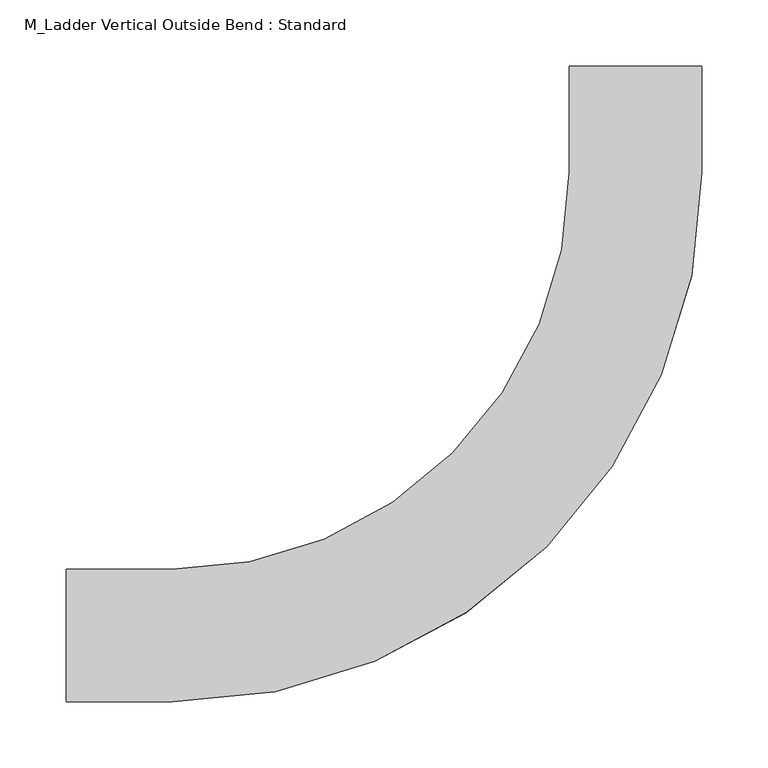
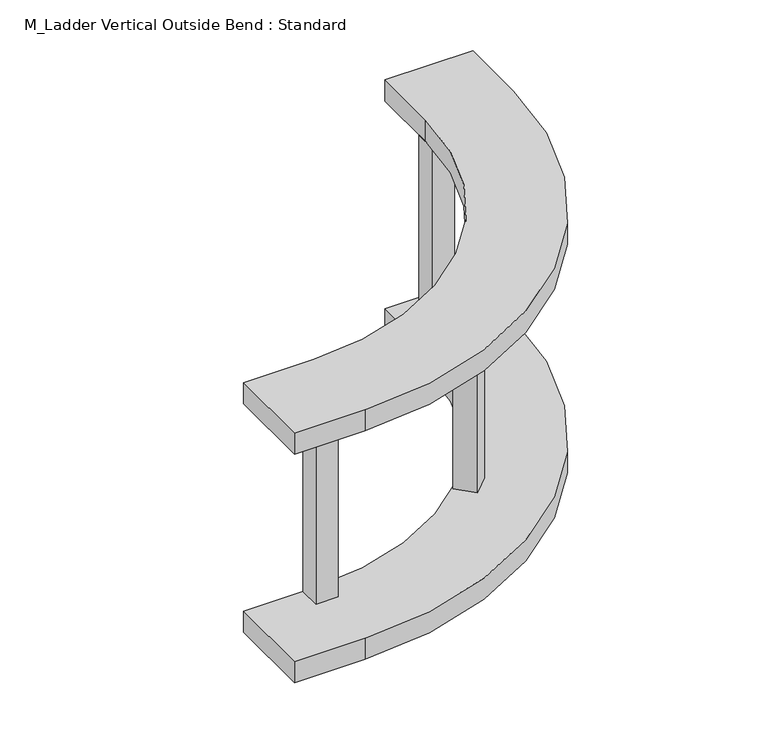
"""IFC4 building model written with IfcOpenShell, lengths in millimetres: cable carrier fitting geometry, M_Ladder Vertical Outside Bend : Standard."""

from ifc_helpers import new_model, si_unit, point, frame, frame_2d, origin, place, context, project, spatial, polyline, circle_curve, trimmed, segment, composite_curve, outline, extrude, source, transform, mapped, element, save


def m_ladder_vertical_outside_bend_standard_a116f5cc(model_context):
    return source(origin(), model_context, "Body", "SweptSolid", [
        extrude(outline(polyline([(-50.0, 362.7), (-24.6, 362.7), (-24.6, 337.3), (-50.0, 337.3), (-50.0, 362.7)])), frame((0.0, 0.0, -124.6), z_axis=(0.0, 0.0, 1.0), x_axis=(1.0, 0.0, 0.0)), (0.0, 0.0, 1.0), 249.2),
        extrude(outline(polyline([(-128.8877095, 146.8482218), (-110.9271973, 128.8877095), (-128.8877095, 110.9271973), (-146.8482218, 128.8877095), (-128.8877095, 146.8482218)])), frame((0.0, 0.0, -124.6), z_axis=(0.0, 0.0, 1.0), x_axis=(1.0, 0.0, 0.0)), (0.0, 0.0, 1.0), 249.2),
        extrude(outline(polyline([(-362.7, 24.6), (-362.7, 50.0), (-337.3, 50.0), (-337.3, 24.6), (-362.7, 24.6)])), frame((0.0, 0.0, -124.6), z_axis=(0.0, 0.0, 1.0), x_axis=(1.0, 0.0, 0.0)), (0.0, 0.0, 1.0), 249.2),
        extrude(outline(composite_curve([segment(polyline([(-430.0, -50.0), (-430.0, 50.0), (-350.0, 50.0)]), True, "CONTINUOUS"), segment(trimmed(circle_curve(frame_2d((-350.0, 350.0)), 300.0), [point((-350.0, 50.0))], [point((-50.0, 350.0))], True, "CARTESIAN"), True, "CONTINUOUS"), segment(polyline([(-50.0, 350.0), (-50.0, 430.0), (50.0, 430.0), (50.0, 350.0)]), True, "CONTINUOUS"), segment(trimmed(circle_curve(frame_2d((-350.0, 350.0)), 400.0), [point((50.0, 350.0))], [point((-350.0, -50.0))], False, "CARTESIAN"), True, "CONTINUOUS"), segment(polyline([(-350.0, -50.0), (-430.0, -50.0)]), True, "CONTINUOUS")], self_intersect=False)), frame((0.0, 0.0, 124.6), z_axis=(0.0, 0.0, 1.0), x_axis=(1.0, 0.0, 0.0)), (0.0, 0.0, 1.0), 25.4),
        extrude(outline(composite_curve([segment(polyline([(-430.0, -50.0), (-430.0, 50.0), (-350.0, 50.0)]), True, "CONTINUOUS"), segment(trimmed(circle_curve(frame_2d((-350.0, 350.0)), 300.0), [point((-350.0, 50.0))], [point((-50.0, 350.0))], True, "CARTESIAN"), True, "CONTINUOUS"), segment(polyline([(-50.0, 350.0), (-50.0, 430.0), (50.0, 430.0), (50.0, 350.0)]), True, "CONTINUOUS"), segment(trimmed(circle_curve(frame_2d((-350.0, 350.0)), 400.0), [point((50.0, 350.0))], [point((-350.0, -50.0))], False, "CARTESIAN"), True, "CONTINUOUS"), segment(polyline([(-350.0, -50.0), (-430.0, -50.0)]), True, "CONTINUOUS")], self_intersect=False)), frame((0.0, 0.0, -150.0), z_axis=(0.0, 0.0, 1.0), x_axis=(1.0, 0.0, 0.0)), (0.0, 0.0, 1.0), 25.4),
    ])


if __name__ == "__main__":
    model = new_model("IFC4")
    model_context = context("Model", 3, world=origin())
    ifc_project = project(units=[si_unit("LENGTHUNIT", "METRE", prefix="MILLI")], contexts=[model_context])
    site = spatial("IfcSite", under=ifc_project)
    building = spatial("IfcBuilding", under=site)
    placement = place(None, origin())
    m_ladder_vertical_outside_bend_standard_shape = m_ladder_vertical_outside_bend_standard_a116f5cc(model_context)
    element("IfcCableCarrierFitting", 1, ObjectType="M_Ladder Vertical Outside Bend : Standard", at=placement, inside=building, context=model_context, shape_type="MappedRepresentation", body=[
        mapped(m_ladder_vertical_outside_bend_standard_shape, transform((0.0, 0.0, 0.0), x_axis=(1.0, 0.0, 0.0), y_axis=(0.0, 1.0, 0.0), z_axis=(0.0, 0.0, 1.0))),
    ])
    save(model, "model.ifc")
